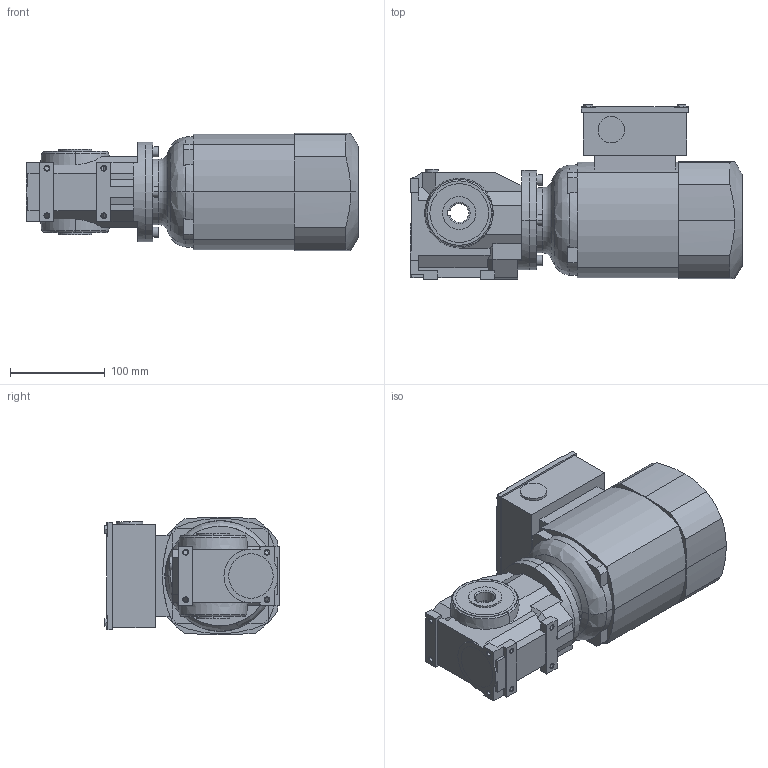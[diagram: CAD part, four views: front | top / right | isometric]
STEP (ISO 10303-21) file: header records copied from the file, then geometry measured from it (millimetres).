
FILE_DESCRIPTION(('STEP AP214'),'1');
FILE_NAME('STEP-File.stp','2018-01-01T00:00:00',(' '),('KEB'),' ','KEB-DRIVE',' ');
FILE_SCHEMA(('AUTOMOTIVE_DESIGN { 1 0 10303 214 1 1 1 1 }'));
Length unit declared in the file: millimetre
Products named in the file (8): s0a; wa_hw_20; ck0; dm71_kkn; kk08; PLUG_M25; ndm71; S02A DM71G4§CAD13
Assembly tree (7 placements, depth 2):
  S02A DM71G4§CAD13
    s0a
    wa_hw_20
    ck0
    dm71_kkn
    kk08
    PLUG_M25
    ndm71
Bounding box: 350.5 x 184.5 x 123.8 mm (x, y, z)
Volume: 4260178.6 mm3; surface area: 316039.2 mm2
Topology: 7 solids, 7 shells, 406 faces, 1131 edges, 828 vertices
Faces by surface type: plane 254, cylinder 76, cone 62, torus 8, extrusion 4, revolution 2
Entity records: 15286 total; most frequent: CARTESIAN_POINT 4917, ORIENTED_EDGE 2262, DIRECTION 1627, EDGE_CURVE 1131, VERTEX_POINT 828, VECTOR 796, LINE 792, EDGE_LOOP 515
